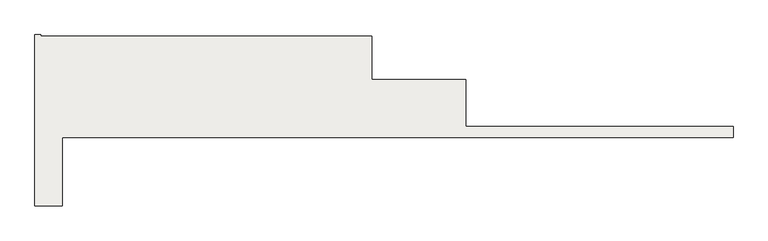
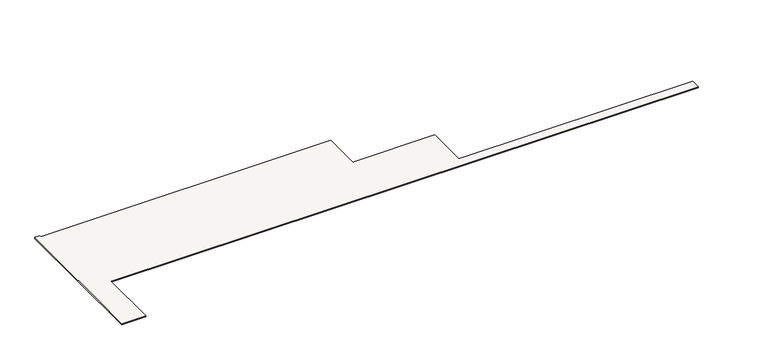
"""IFC4 building model written with IfcOpenShell, lengths in millimetres: slab geometry, Sol-02 - dalle béton 20cm."""

from ifc_helpers import new_model, si_unit, frame, origin, place, context, project, spatial, polyline, outline, extrude, source, transform, mapped, element, save


def slab_6cf1b3bc(model_context):
    return source(origin(), model_context, "Body", "SweptSolid", [
        extrude(outline(polyline([(-88819.3218006, -40155.6712621), (-88819.3218006, -19318.7712621), (-88139.873809, -19318.7712621), (-88139.873809, -19500.614977), (-47879.998776, -19500.614977), (-47879.998776, -24756.4465988), (-36494.9987968, -24756.4465988), (-36494.9987968, -30492.5159216), (-3999.9988284, -30492.5159216), (-3999.9988284, -31808.0159216), (-85489.873809, -31808.0159216), (-85489.873809, -40155.6712621), (-88819.3218006, -40155.6712621)])), frame((0.0, 0.0, -200.0), z_axis=(0.0, 0.0, 1.0), x_axis=(1.0, 0.0, 0.0)), (0.0, 0.0, 1.0), 200.0),
    ])


if __name__ == "__main__":
    model = new_model("IFC4")
    model_context = context("Model", 3, world=origin())
    ifc_project = project(units=[si_unit("LENGTHUNIT", "METRE", prefix="MILLI")], contexts=[model_context])
    site = spatial("IfcSite", under=ifc_project)
    building = spatial("IfcBuilding", under=site)
    placement = place(None, origin())
    slab_shape = slab_6cf1b3bc(model_context)
    element("IfcSlab", 1, ObjectType="Sol-02 - dalle béton 20cm", at=placement, inside=building, context=model_context, shape_type="MappedRepresentation", body=[
        mapped(slab_shape, transform((0.0, 0.0, 0.0), x_axis=(1.0, 0.0, 0.0), y_axis=(0.0, 1.0, 0.0), z_axis=(0.0, 0.0, 1.0))),
    ])
    save(model, "model.ifc")
